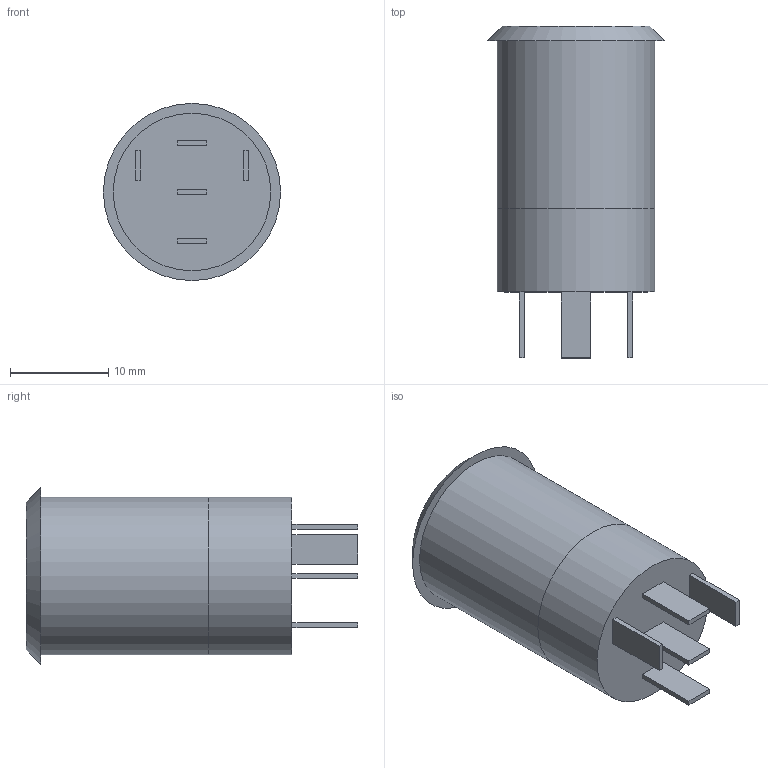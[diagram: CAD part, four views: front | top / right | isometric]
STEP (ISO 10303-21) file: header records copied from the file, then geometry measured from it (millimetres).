
FILE_DESCRIPTION(('FreeCAD Model'),'2;1');
FILE_NAME('Open CASCADE Shape Model','2023-05-06T18:44:57',('Author'),( ''),'Open CASCADE STEP processor 7.5','FreeCAD','Unknown');
FILE_SCHEMA(('AUTOMOTIVE_DESIGN { 1 0 10303 214 1 1 1 1 }'));
Length unit declared in the file: millimetre
Products named in the file (1): button on_off 3-6V_GLED
Bounding box: 18 x 33.7 x 18 mm (x, y, z)
Volume: 5475.1 mm3; surface area: 2744.7 mm2
Topology: 8 solids, 8 shells, 63 faces, 129 edges, 86 vertices
Faces by surface type: plane 46, cylinder 16, cone 1
Full cylindrical faces by diameter (mm): 13 x1, 13.3 x1, 14.7 x1, 15 x1, 16 x2
Entity records: 1779 total; most frequent: DIRECTION 282, CARTESIAN_POINT 270, ORIENTED_EDGE 242, EDGE_CURVE 121, AXIS2_PLACEMENT_3D 97, VECTOR 88, LINE 88, VERTEX_POINT 85
